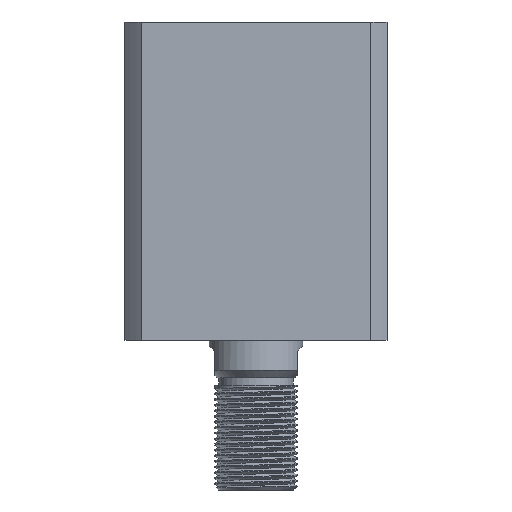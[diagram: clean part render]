
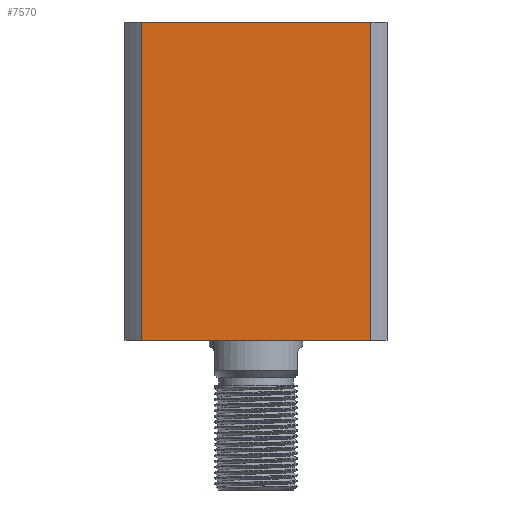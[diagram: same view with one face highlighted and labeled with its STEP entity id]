
A CAD part, front view. The second image highlights one B-rep face of the part: STEP entity #7570.
In plain terms, the highlighted planar face has unit normal (0, -1, 0).
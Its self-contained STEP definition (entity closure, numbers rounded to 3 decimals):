
#561 = CARTESIAN_POINT ( 'NONE',  ( 30.615, -35., 300. ) ) ;
#759 = VERTEX_POINT ( 'NONE', #1785 ) ;
#1165 = VERTEX_POINT ( 'NONE', #7159 ) ;
#1264 = EDGE_CURVE ( 'NONE', #12573, #759, #5178, .T. ) ;
#1345 = EDGE_CURVE ( 'NONE', #6205, #12573, #8278, .T. ) ;
#1411 = ORIENTED_EDGE ( 'NONE', *, *, #1345, .F. ) ;
#1630 = DIRECTION ( 'NONE',  ( 0., 0., -1. ) ) ;
#1657 = DIRECTION ( 'NONE',  ( 0., 0., 1. ) ) ;
#1785 = CARTESIAN_POINT ( 'NONE',  ( 30.615, -35., 85. ) ) ;
#2063 = LINE ( 'NONE', #561, #7289 ) ;
#3034 = VECTOR ( 'NONE', #8975, 1000. ) ;
#3895 = ORIENTED_EDGE ( 'NONE', *, *, #4338, .F. ) ;
#4338 = EDGE_CURVE ( 'NONE', #759, #1165, #2063, .T. ) ;
#4659 = CARTESIAN_POINT ( 'NONE',  ( -35., -35., 85. ) ) ;
#4786 = VECTOR ( 'NONE', #5123, 1000. ) ;
#4988 = FACE_OUTER_BOUND ( 'NONE', #9036, .T. ) ;
#4996 = CARTESIAN_POINT ( 'NONE',  ( -30.615, -35., 0. ) ) ;
#5103 = LINE ( 'NONE', #8291, #4786 ) ;
#5123 = DIRECTION ( 'NONE',  ( 1., 0., 0. ) ) ;
#5178 = LINE ( 'NONE', #4659, #3034 ) ;
#5771 = PLANE ( 'NONE',  #7245 ) ;
#6205 = VERTEX_POINT ( 'NONE', #4996 ) ;
#6660 = ORIENTED_EDGE ( 'NONE', *, *, #1264, .F. ) ;
#7159 = CARTESIAN_POINT ( 'NONE',  ( 30.615, -35., 0. ) ) ;
#7245 = AXIS2_PLACEMENT_3D ( 'NONE', #12078, #7927, #1657 ) ;
#7289 = VECTOR ( 'NONE', #1630, 1000. ) ;
#7300 = CARTESIAN_POINT ( 'NONE',  ( -30.615, -35., 300. ) ) ;
#7570 = ADVANCED_FACE ( 'NONE', ( #4988 ), #5771, .F. ) ;
#7927 = DIRECTION ( 'NONE',  ( 0., 1., 0. ) ) ;
#8188 = CARTESIAN_POINT ( 'NONE',  ( -30.615, -35., 85. ) ) ;
#8278 = LINE ( 'NONE', #7300, #10719 ) ;
#8291 = CARTESIAN_POINT ( 'NONE',  ( -35., -35., 0. ) ) ;
#8367 = DIRECTION ( 'NONE',  ( 0., 0., 1. ) ) ;
#8975 = DIRECTION ( 'NONE',  ( 1., 0., 0. ) ) ;
#9036 = EDGE_LOOP ( 'NONE', ( #3895, #6660, #1411, #9778 ) ) ;
#9778 = ORIENTED_EDGE ( 'NONE', *, *, #11432, .T. ) ;
#10719 = VECTOR ( 'NONE', #8367, 1000. ) ;
#11432 = EDGE_CURVE ( 'NONE', #6205, #1165, #5103, .T. ) ;
#12078 = CARTESIAN_POINT ( 'NONE',  ( -35., -35., 85. ) ) ;
#12573 = VERTEX_POINT ( 'NONE', #8188 ) ;
